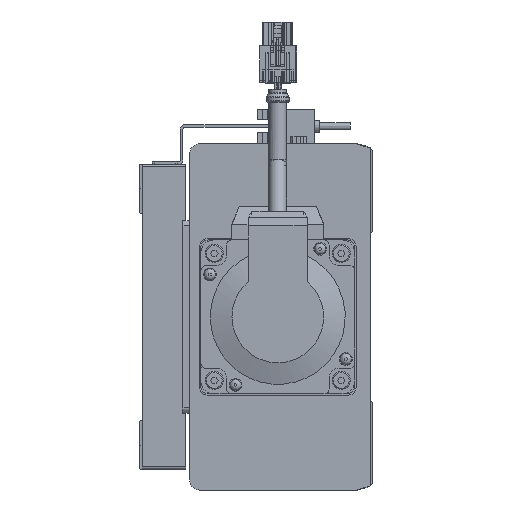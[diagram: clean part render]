
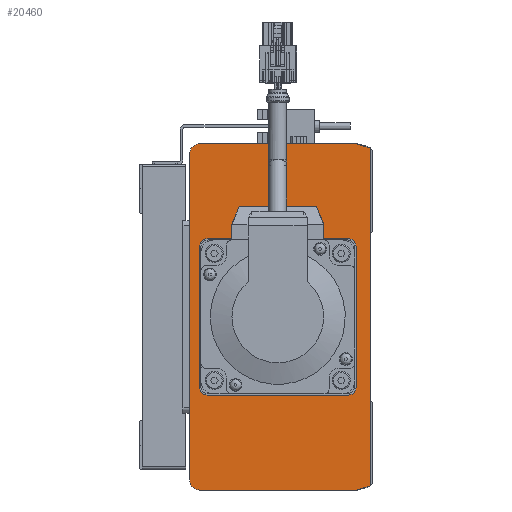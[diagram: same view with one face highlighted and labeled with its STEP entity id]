
A CAD part, left-side view. The second image highlights one B-rep face of the part: STEP entity #20460.
In plain terms, the highlighted planar face has unit normal (-1, 0, 0) as drawn and (0, 0, 1) by its records, which use the part's own axes.
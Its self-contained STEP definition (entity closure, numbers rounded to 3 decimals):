
#958=CIRCLE('',#22217,4.);
#959=CIRCLE('',#22221,3.);
#961=CIRCLE('',#22225,3.);
#963=CIRCLE('',#22229,3.);
#965=CIRCLE('',#22233,3.);
#967=CIRCLE('',#22236,4.);
#5788=ORIENTED_EDGE('',*,*,#9115,.F.);
#5789=ORIENTED_EDGE('',*,*,#9119,.F.);
#5790=ORIENTED_EDGE('',*,*,#9122,.F.);
#5791=ORIENTED_EDGE('',*,*,#9125,.F.);
#5792=ORIENTED_EDGE('',*,*,#9128,.F.);
#5793=ORIENTED_EDGE('',*,*,#9131,.F.);
#5794=ORIENTED_EDGE('',*,*,#9134,.F.);
#5795=ORIENTED_EDGE('',*,*,#9137,.F.);
#5796=ORIENTED_EDGE('',*,*,#9060,.T.);
#5797=ORIENTED_EDGE('',*,*,#9071,.T.);
#5798=ORIENTED_EDGE('',*,*,#9074,.T.);
#5799=ORIENTED_EDGE('',*,*,#9084,.T.);
#5800=ORIENTED_EDGE('',*,*,#9093,.T.);
#5801=ORIENTED_EDGE('',*,*,#9103,.T.);
#5802=ORIENTED_EDGE('',*,*,#9109,.T.);
#5803=ORIENTED_EDGE('',*,*,#9139,.T.);
#9060=EDGE_CURVE('',#11177,#11178,#13308,.T.);
#9071=EDGE_CURVE('',#11178,#11187,#13319,.T.);
#9074=EDGE_CURVE('',#11187,#11189,#13322,.T.);
#9084=EDGE_CURVE('',#11189,#11197,#13332,.T.);
#9093=EDGE_CURVE('',#11197,#11203,#13341,.T.);
#9103=EDGE_CURVE('',#11203,#11211,#958,.T.);
#9109=EDGE_CURVE('',#11211,#11216,#13356,.T.);
#9115=EDGE_CURVE('',#11219,#11220,#13362,.T.);
#9119=EDGE_CURVE('',#11223,#11219,#959,.T.);
#9122=EDGE_CURVE('',#11225,#11223,#13367,.T.);
#9125=EDGE_CURVE('',#11227,#11225,#961,.T.);
#9128=EDGE_CURVE('',#11229,#11227,#13371,.T.);
#9131=EDGE_CURVE('',#11231,#11229,#963,.T.);
#9134=EDGE_CURVE('',#11233,#11231,#13375,.T.);
#9137=EDGE_CURVE('',#11220,#11233,#965,.T.);
#9139=EDGE_CURVE('',#11216,#11177,#967,.T.);
#11177=VERTEX_POINT('',#33415);
#11178=VERTEX_POINT('',#33416);
#11187=VERTEX_POINT('',#33437);
#11189=VERTEX_POINT('',#33443);
#11197=VERTEX_POINT('',#33462);
#11203=VERTEX_POINT('',#33478);
#11211=VERTEX_POINT('',#33497);
#11216=VERTEX_POINT('',#33508);
#11219=VERTEX_POINT('',#33519);
#11220=VERTEX_POINT('',#33520);
#11223=VERTEX_POINT('',#33528);
#11225=VERTEX_POINT('',#33534);
#11227=VERTEX_POINT('',#33540);
#11229=VERTEX_POINT('',#33546);
#11231=VERTEX_POINT('',#33552);
#11233=VERTEX_POINT('',#33558);
#13308=LINE('',#33414,#15417);
#13319=LINE('',#33436,#15428);
#13322=LINE('',#33442,#15431);
#13332=LINE('',#33461,#15441);
#13341=LINE('',#33477,#15450);
#13356=LINE('',#33509,#15465);
#13362=LINE('',#33518,#15471);
#13367=LINE('',#33533,#15476);
#13371=LINE('',#33545,#15480);
#13375=LINE('',#33557,#15484);
#15417=VECTOR('',#27313,1000.);
#15428=VECTOR('',#27326,1000.);
#15431=VECTOR('',#27331,1000.);
#15441=VECTOR('',#27343,1000.);
#15450=VECTOR('',#27354,1000.);
#15465=VECTOR('',#27375,1000.);
#15471=VECTOR('',#27383,1000.);
#15476=VECTOR('',#27396,1000.);
#15480=VECTOR('',#27408,1000.);
#15484=VECTOR('',#27420,1000.);
#16882=EDGE_LOOP('',(#5788,#5789,#5790,#5791,#5792,#5793,#5794,#5795));
#16883=EDGE_LOOP('',(#5796,#5797,#5798,#5799,#5800,#5801,#5802,#5803));
#18389=FACE_BOUND('',#16882,.T.);
#18390=FACE_BOUND('',#16883,.T.);
#19406=PLANE('',#22244);
#20460=ADVANCED_FACE('',(#18389,#18390),#19406,.T.);
#22217=AXIS2_PLACEMENT_3D('',#33496,#27366,#27367);
#22221=AXIS2_PLACEMENT_3D('',#33527,#27389,#27390);
#22225=AXIS2_PLACEMENT_3D('',#33539,#27401,#27402);
#22229=AXIS2_PLACEMENT_3D('',#33551,#27413,#27414);
#22233=AXIS2_PLACEMENT_3D('',#33563,#27425,#27426);
#22236=AXIS2_PLACEMENT_3D('',#33566,#27431,#27432);
#22244=AXIS2_PLACEMENT_3D('',#33586,#27451,#27452);
#27313=DIRECTION('',(0.,-1.,0.));
#27326=DIRECTION('',(0.3,-0.954,0.));
#27331=DIRECTION('',(1.,0.,0.));
#27343=DIRECTION('',(0.3,0.954,0.));
#27354=DIRECTION('',(0.,1.,0.));
#27366=DIRECTION('',(0.,0.,1.));
#27367=DIRECTION('',(1.,0.,0.));
#27375=DIRECTION('',(-1.,0.,0.));
#27383=DIRECTION('',(0.,-1.,0.));
#27389=DIRECTION('',(0.,0.,1.));
#27390=DIRECTION('',(1.,0.,0.));
#27396=DIRECTION('',(-1.,0.,0.));
#27401=DIRECTION('',(0.,0.,1.));
#27402=DIRECTION('',(1.,0.,0.));
#27408=DIRECTION('',(0.,1.,0.));
#27413=DIRECTION('',(0.,0.,1.));
#27414=DIRECTION('',(1.,0.,0.));
#27420=DIRECTION('',(1.,0.,0.));
#27425=DIRECTION('',(0.,0.,1.));
#27426=DIRECTION('',(1.,0.,0.));
#27431=DIRECTION('',(0.,0.,1.));
#27432=DIRECTION('',(1.,0.,0.));
#27451=DIRECTION('',(0.,0.,1.));
#27452=DIRECTION('',(1.,0.,0.));
#33414=CARTESIAN_POINT('',(-67.5,67.4,0.));
#33415=CARTESIAN_POINT('',(-67.5,67.4,0.));
#33416=CARTESIAN_POINT('',(-67.5,6.241,0.));
#33436=CARTESIAN_POINT('',(-67.5,6.241,0.));
#33437=CARTESIAN_POINT('',(-65.854,1.,0.));
#33442=CARTESIAN_POINT('',(-65.854,1.,0.));
#33443=CARTESIAN_POINT('',(65.854,1.,0.));
#33461=CARTESIAN_POINT('',(65.854,1.,0.));
#33462=CARTESIAN_POINT('',(67.5,6.241,0.));
#33477=CARTESIAN_POINT('',(67.5,6.241,0.));
#33478=CARTESIAN_POINT('',(67.5,67.4,0.));
#33496=CARTESIAN_POINT('',(63.5,67.4,0.));
#33497=CARTESIAN_POINT('',(63.5,71.4,0.));
#33508=CARTESIAN_POINT('',(-63.5,71.4,0.));
#33509=CARTESIAN_POINT('',(63.5,71.4,0.));
#33518=CARTESIAN_POINT('',(-30.5,64.5,0.));
#33519=CARTESIAN_POINT('',(-30.5,64.5,0.));
#33520=CARTESIAN_POINT('',(-30.5,9.5,0.));
#33527=CARTESIAN_POINT('',(-27.5,64.5,0.));
#33528=CARTESIAN_POINT('',(-27.5,67.5,0.));
#33533=CARTESIAN_POINT('',(27.5,67.5,0.));
#33534=CARTESIAN_POINT('',(27.5,67.5,0.));
#33539=CARTESIAN_POINT('',(27.5,64.5,0.));
#33540=CARTESIAN_POINT('',(30.5,64.5,0.));
#33545=CARTESIAN_POINT('',(30.5,9.5,0.));
#33546=CARTESIAN_POINT('',(30.5,9.5,0.));
#33551=CARTESIAN_POINT('',(27.5,9.5,0.));
#33552=CARTESIAN_POINT('',(27.5,6.5,0.));
#33557=CARTESIAN_POINT('',(-27.5,6.5,0.));
#33558=CARTESIAN_POINT('',(-27.5,6.5,0.));
#33563=CARTESIAN_POINT('',(-27.5,9.5,0.));
#33566=CARTESIAN_POINT('',(-63.5,67.4,0.));
#33586=CARTESIAN_POINT('',(63.5,67.4,0.));
